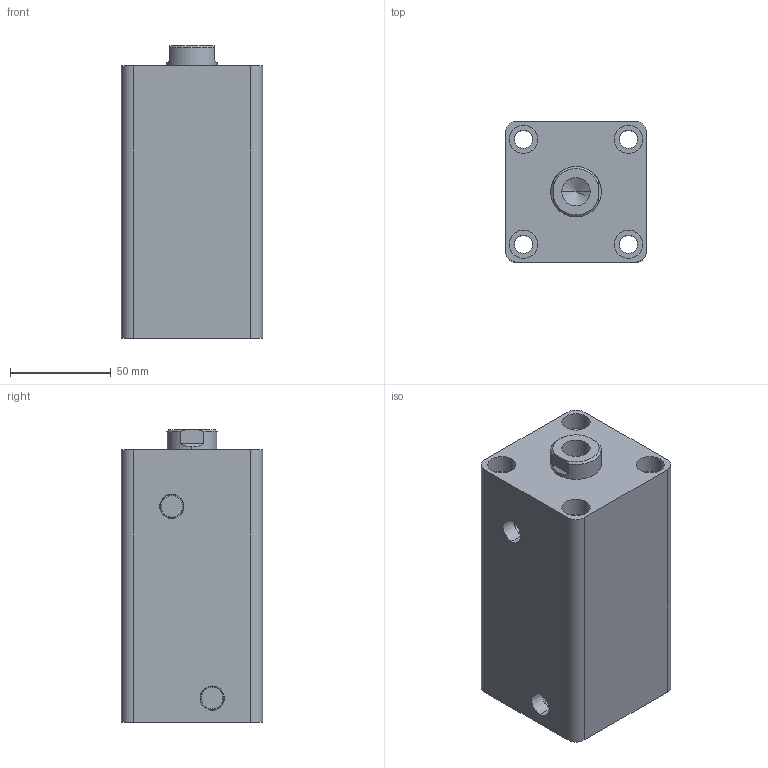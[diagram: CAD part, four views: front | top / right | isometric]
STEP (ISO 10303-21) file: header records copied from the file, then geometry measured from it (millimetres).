
FILE_DESCRIPTION (( 'STEP AP203' ), '1' );
FILE_NAME ('HTB-SD40-80N.STEP', '2019-10-07T06:55:50', ( '微软用户' ), ( '微软中国' ), 'SwSTEP 2.0', 'SolidWorks 2012', '' );
FILE_SCHEMA (( 'CONFIG_CONTROL_DESIGN' ));
Length unit declared in the file: millimetre
Products named in the file (3): HTB-SD40-80N; HTB-SD40-80N活塞杆; HTB-SD40-80掛极
Assembly tree (2 placements, depth 2):
  HTB-SD40-80N
    HTB-SD40-80掛极
    HTB-SD40-80N活塞杆
Bounding box: 70 x 70 x 145 mm (x, y, z)
Volume: 554668.3 mm3; surface area: 93440.3 mm2
Topology: 2 solids, 2 shells, 81 faces, 180 edges, 117 vertices
Faces by surface type: cylinder 42, plane 27, cone 8, torus 4
Entity records: 2603 total; most frequent: DIRECTION 444, CARTESIAN_POINT 409, ORIENTED_EDGE 356, AXIS2_PLACEMENT_3D 188, EDGE_CURVE 178, VERTEX_POINT 117, EDGE_LOOP 105, CIRCLE 102
